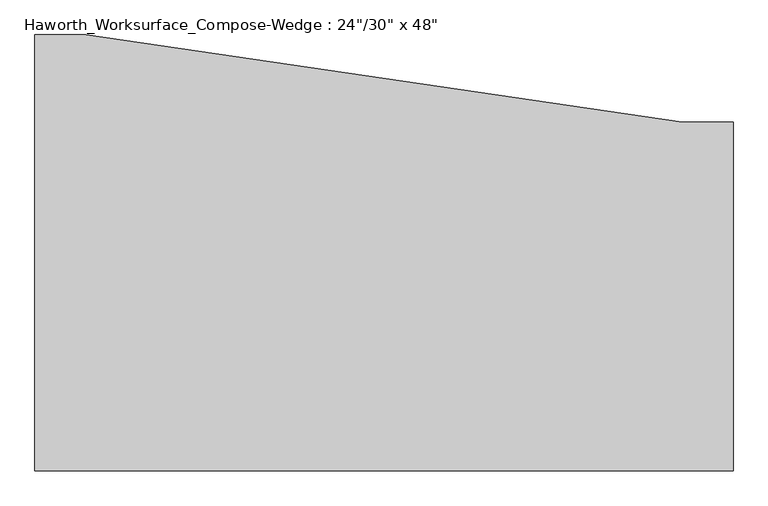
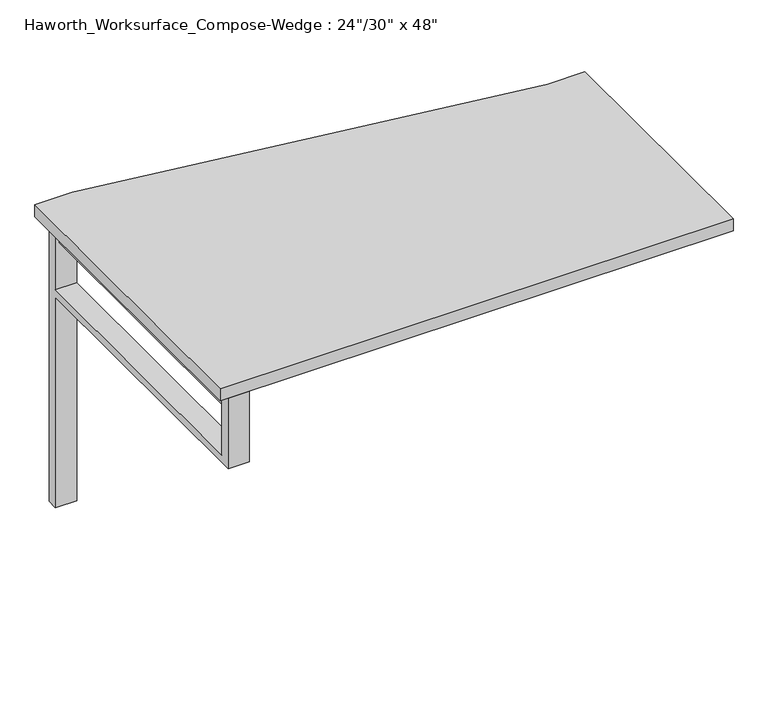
"""IFC4 building model written with IfcOpenShell, lengths in millimetres: furniture geometry."""

from ifc_helpers import new_model, si_unit, frame, origin, place, context, project, spatial, polyline, outline, extrude, source, transform, mapped, element, save


def furniture_66076b28(model_context):
    return source(origin(), model_context, "Body", "SweptSolid", [
        extrude(outline(polyline([(609.6, -381.0), (-609.6, -381.0), (-609.6, 381.0), (-520.7, 381.0), (520.7, 228.6), (609.6, 228.6), (609.6, -381.0)])), frame((0.0, 0.0, 706.4375), z_axis=(0.0, 0.0, 1.0), x_axis=(1.0, 0.0, 0.0)), (0.0, 0.0, 1.0), 30.1625),
        extrude(outline(polyline([(-549.275, -355.6), (-581.025, -355.6), (-581.025, 330.2), (-549.275, 330.2), (-549.275, -355.6)])), frame((0.0, 0.0, 661.9875), z_axis=(0.0, 0.0, 1.0), x_axis=(1.0, 0.0, 0.0)), (0.0, 0.0, 1.0), 44.45),
        extrude(outline(polyline([(330.2, 528.6375), (-381.0, 528.6375), (-381.0, 706.4375), (-355.6, 706.4375), (-355.6, 547.6875), (330.2, 547.6875), (330.2, 706.4375), (355.6, 706.4375), (355.6, 0.0), (330.2, 0.0), (330.2, 528.6375)])), frame((-590.55, 0.0, 0.0), z_axis=(1.0, 0.0, 0.0), x_axis=(0.0, 1.0, 0.0)), (0.0, 0.0, 1.0), 50.8),
    ])


if __name__ == "__main__":
    model = new_model("IFC4")
    model_context = context("Model", 3, world=origin())
    ifc_project = project(units=[si_unit("LENGTHUNIT", "METRE", prefix="MILLI")], contexts=[model_context])
    site = spatial("IfcSite", under=ifc_project)
    building = spatial("IfcBuilding", under=site)
    placement = place(None, origin())
    furniture_shape = furniture_66076b28(model_context)
    element("IfcFurniture", 1, ObjectType="Haworth_Worksurface_Compose-Wedge : 24\"/30\" x 48\"", at=placement, inside=building, context=model_context, shape_type="MappedRepresentation", body=[
        mapped(furniture_shape, transform((0.0, 0.0, 0.0), x_axis=(1.0, 0.0, 0.0), y_axis=(0.0, 1.0, 0.0), z_axis=(0.0, 0.0, 1.0))),
    ])
    save(model, "model.ifc")
